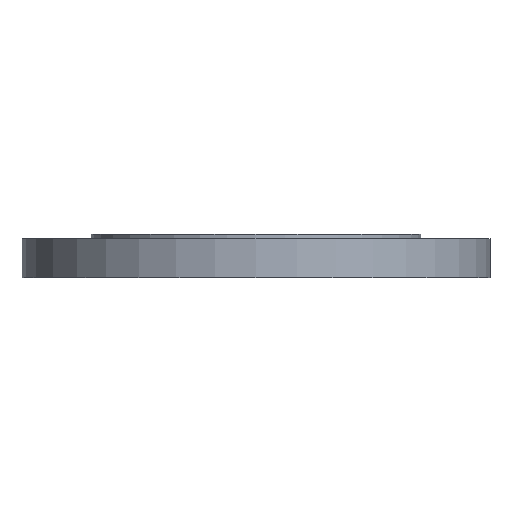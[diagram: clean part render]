
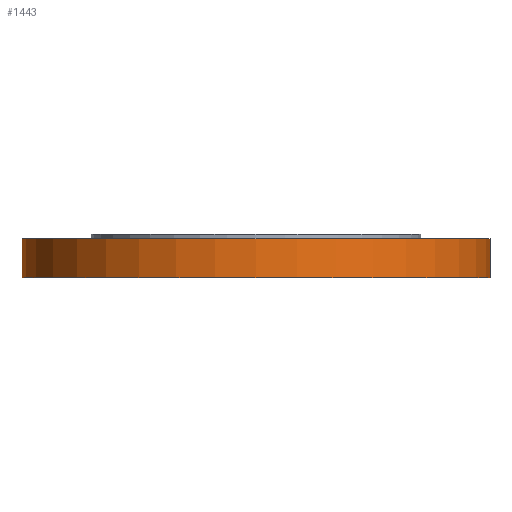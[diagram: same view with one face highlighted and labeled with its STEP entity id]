
A CAD part, front view. The second image highlights one B-rep face of the part: STEP entity #1443.
In plain terms, the highlighted cylindrical face has radius 257.5 mm (diameter 515 mm), a partial arc.
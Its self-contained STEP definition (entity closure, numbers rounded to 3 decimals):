
#139 = CARTESIAN_POINT ( 'NONE',  ( 257.5, 0., -48. ) ) ;
#160 = CIRCLE ( 'NONE', #945, 257.5 ) ;
#182 = ORIENTED_EDGE ( 'NONE', *, *, #1316, .F. ) ;
#186 = ORIENTED_EDGE ( 'NONE', *, *, #816, .F. ) ;
#187 = ORIENTED_EDGE ( 'NONE', *, *, #465, .T. ) ;
#189 = ORIENTED_EDGE ( 'NONE', *, *, #320, .T. ) ;
#219 = CARTESIAN_POINT ( 'NONE',  ( -257.5, 0., -5. ) ) ;
#268 = CARTESIAN_POINT ( 'NONE',  ( -257.5, 0., -48. ) ) ;
#304 = CARTESIAN_POINT ( 'NONE',  ( 257.5, 0., -5. ) ) ;
#320 = EDGE_CURVE ( 'NONE', #1460, #1495, #965, .T. ) ;
#323 = DIRECTION ( 'NONE',  ( 1., 0., 0. ) ) ;
#324 = DIRECTION ( 'NONE',  ( 0., 0., 1. ) ) ;
#325 = CARTESIAN_POINT ( 'NONE',  ( 0., 0., -125. ) ) ;
#327 = CYLINDRICAL_SURFACE ( 'NONE', #605, 257.5 ) ;
#332 = FACE_OUTER_BOUND ( 'NONE', #1485, .T. ) ;
#465 = EDGE_CURVE ( 'NONE', #1546, #1460, #1121, .T. ) ;
#470 = VECTOR ( 'NONE', #533, 1000. ) ;
#533 = DIRECTION ( 'NONE',  ( 0., 0., 1. ) ) ;
#537 = VECTOR ( 'NONE', #1118, 1000. ) ;
#538 = CARTESIAN_POINT ( 'NONE',  ( -257.5, 0., -125. ) ) ;
#539 = LINE ( 'NONE', #538, #470 ) ;
#605 = AXIS2_PLACEMENT_3D ( 'NONE', #325, #324, #323 ) ;
#816 = EDGE_CURVE ( 'NONE', #1546, #1479, #160, .T. ) ;
#945 = AXIS2_PLACEMENT_3D ( 'NONE', #970, #969, #968 ) ;
#965 = CIRCLE ( 'NONE', #992, 257.5 ) ;
#968 = DIRECTION ( 'NONE',  ( -1., 0., 0. ) ) ;
#969 = DIRECTION ( 'NONE',  ( 0., 0., -1. ) ) ;
#970 = CARTESIAN_POINT ( 'NONE',  ( 0., 0., -48. ) ) ;
#992 = AXIS2_PLACEMENT_3D ( 'NONE', #1270, #1269, #1267 ) ;
#1118 = DIRECTION ( 'NONE',  ( 0., 0., 1. ) ) ;
#1120 = CARTESIAN_POINT ( 'NONE',  ( 257.5, 0., -125. ) ) ;
#1121 = LINE ( 'NONE', #1120, #537 ) ;
#1267 = DIRECTION ( 'NONE',  ( -1., 0., 0. ) ) ;
#1269 = DIRECTION ( 'NONE',  ( 0., 0., -1. ) ) ;
#1270 = CARTESIAN_POINT ( 'NONE',  ( 0., 0., -5. ) ) ;
#1316 = EDGE_CURVE ( 'NONE', #1479, #1495, #539, .T. ) ;
#1443 = ADVANCED_FACE ( 'NONE', ( #332 ), #327, .T. ) ;
#1460 = VERTEX_POINT ( 'NONE', #304 ) ;
#1479 = VERTEX_POINT ( 'NONE', #268 ) ;
#1485 = EDGE_LOOP ( 'NONE', ( #182, #186, #187, #189 ) ) ;
#1495 = VERTEX_POINT ( 'NONE', #219 ) ;
#1546 = VERTEX_POINT ( 'NONE', #139 ) ;
